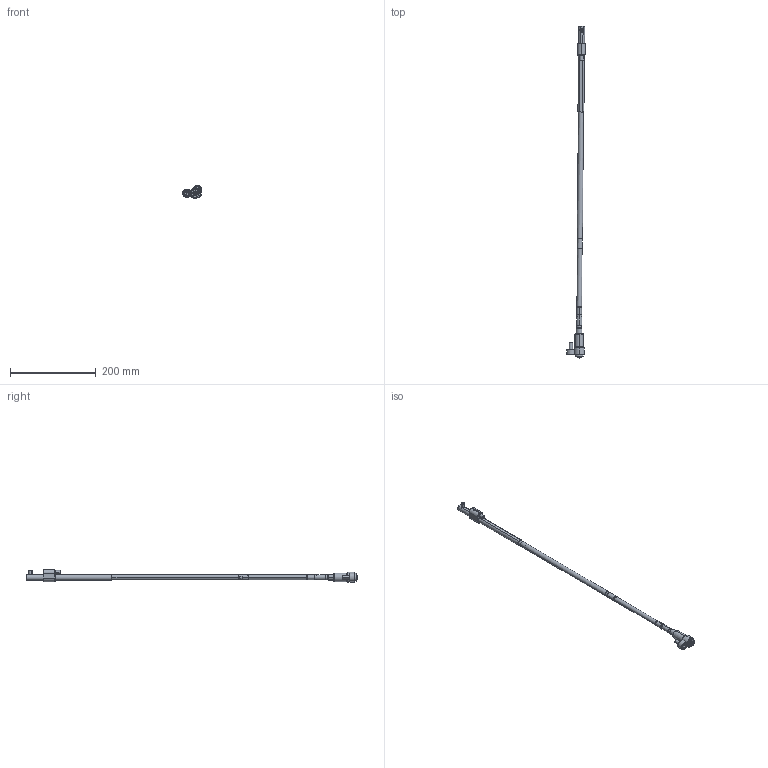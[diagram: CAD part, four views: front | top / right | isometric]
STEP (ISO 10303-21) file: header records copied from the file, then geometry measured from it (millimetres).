
FILE_DESCRIPTION (( 'STEP AP214' ), '1' );
FILE_NAME ('WL120125-EJE 0,5°.STEP', '2021-03-19T15:37:23', ( '' ), ( '' ), 'SwSTEP 2.0', 'SolidWorks 2019', '' );
FILE_SCHEMA (( 'AUTOMOTIVE_DESIGN' ));
Length unit declared in the file: millimetre
Products named in the file (17): Web-WL12-A3; Web-WL12-F01; Web-WL12-F00.SLDPRT; 8WL12EJEP; 9DR2808-TOR; Web-WL12-A1; Web-WL12-A8; WL120100-E; 1DIN912820_DIN 912 M8 x 20 --- 20C; Web-WL12-XX_ON-WL120125-0,5; WL120100-D; WL120125-EJE 0,5°; 3IMAN5X3-150_con sellador; WL120100-B; Web-WL12-A2; 1DIN912645_DIN 912 M6 x 45 --- 45C; WL120100-B1
Assembly tree (16 placements, depth 3):
  WL120125-EJE 0,5°
    Web-WL12-A8
    Web-WL12-XX_ON-WL120125-0,5
    Web-WL12-A3
    Web-WL12-A2
    Web-WL12-A1
    Web-WL12-F00.SLDPRT
      Web-WL12-F01
      1DIN912820_DIN 912 M8 x 20 --- 20C
      1DIN912645_DIN 912 M6 x 45 --- 45C
    WL120100-D
    8WL12EJEP
    WL120100-E
    9DR2808-TOR
    WL120100-B
      WL120100-B1
      3IMAN5X3-150_con sellador
Bounding box: 43.75 x 773.03 x 29.9 mm (x, y, z)
Volume: 116548 mm3; surface area: 51029.8 mm2
Topology: 15 solids, 15 shells, 432 faces, 906 edges, 525 vertices
Faces by surface type: plane 139, cylinder 123, cone 120, torus 50
Entity records: 13661 total; most frequent: DIRECTION 2240, CARTESIAN_POINT 2104, ORIENTED_EDGE 1788, AXIS2_PLACEMENT_3D 929, EDGE_CURVE 894, VERTEX_POINT 525, EDGE_LOOP 477, CIRCLE 476
